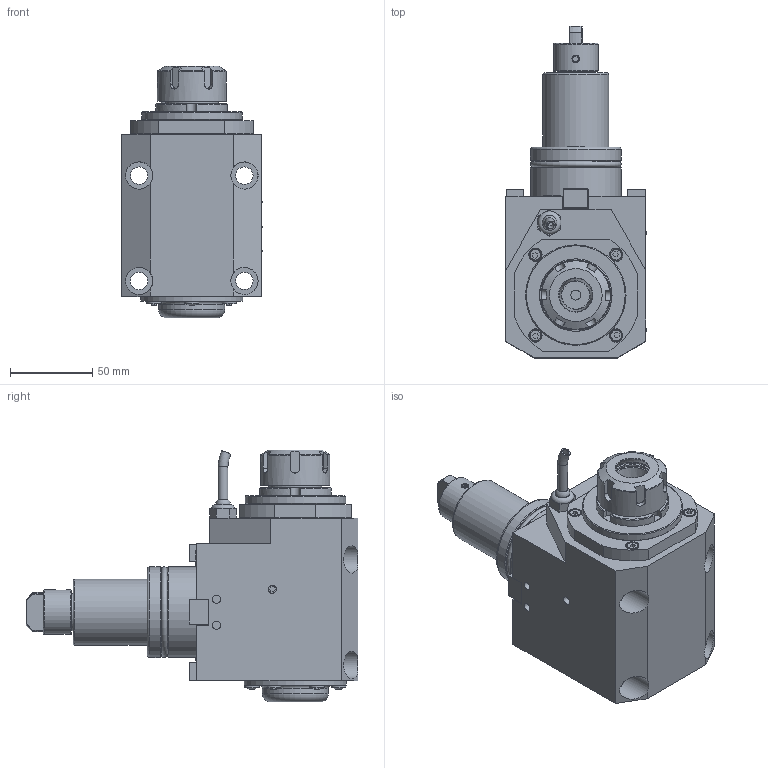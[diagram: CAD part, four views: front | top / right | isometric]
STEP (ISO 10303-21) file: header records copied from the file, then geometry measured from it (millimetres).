
FILE_DESCRIPTION(/* description */ (''),/* implementation_level */ '2;1');
FILE_NAME(/* name */ 'BMT55-90-60-ER25.stp',/* time_stamp */ '2026-01-20T11:09:40+03:00',/* author */ ('User'),/* organization */ (''),/* preprocessor_version */ 'ST-DEVELOPER v19.2',/* originating_system */ 'Autodesk Inventor 2024',/* authorisation */ '');
FILE_SCHEMA (('AUTOMOTIVE_DESIGN { 1 0 10303 214 3 1 1 }'));
Length unit declared in the file: millimetre
Products named in the file (3): Радиальный приводной 
цанговый блок BMT5
5-90-60-ER25; Радиальный приводной 
цанговый блок BMT5
5-90-60-ER25_1; Гайка на шпиндель
Assembly tree (2 placements, depth 2):
  Радиальный приводной 
цанговый блок BMT5
5-90-60-ER25
    Радиальный приводной 
цанговый блок BMT5
5-90-60-ER25_1
    Гайка на шпиндель
Bounding box: 85.28 x 201.5 x 153 mm (x, y, z)
Volume: 974630.8 mm3; surface area: 124089.5 mm2
Topology: 27 solids, 27 shells, 563 faces, 1364 edges, 891 vertices
Faces by surface type: plane 360, cylinder 104, cone 54, torus 28, bspline 12, sphere 5
Full cylindrical faces by diameter (mm): 3.9 x2, 4 x2, 4.85 x1, 5 x3, 6 x8, 7.4 x4, 7.5 x4, 8.35 x4, 8.75 x6, 8.8 x1, 10.5 x4, 11 x4, 16.5 x4, 17 x1, 18 x1, 22.5 x1, 25 x1, 27 x1, 28 x1, 30 x1, 30.376 x1, 32 x1, 40 x2, 42 x1, 44 x1, 48 x2, 55 x2, 58 x2, 61 x1, 62 x1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
Entity records: 17684 total; most frequent: CARTESIAN_POINT 3932, ORIENTED_EDGE 2718, DIRECTION 2654, EDGE_CURVE 1359, AXIS2_PLACEMENT_3D 924, VERTEX_POINT 892, LINE 806, VECTOR 806
